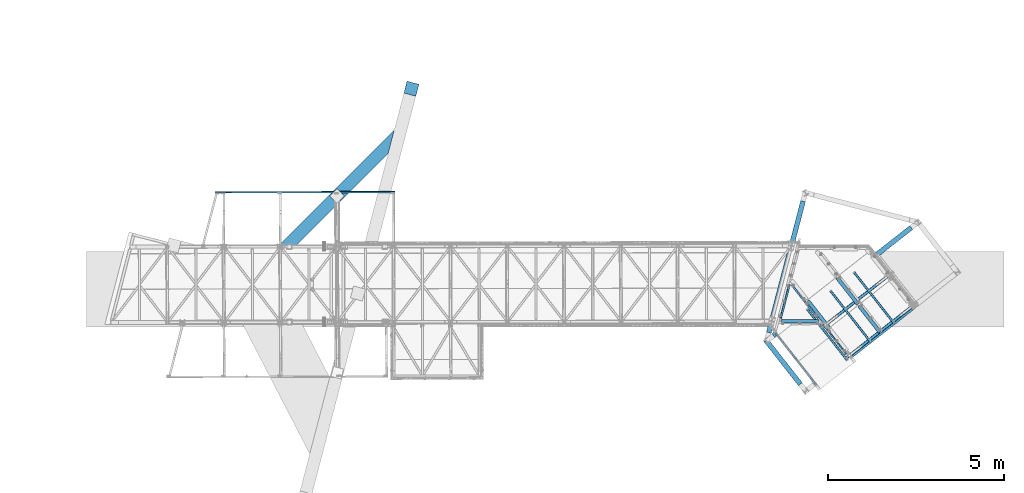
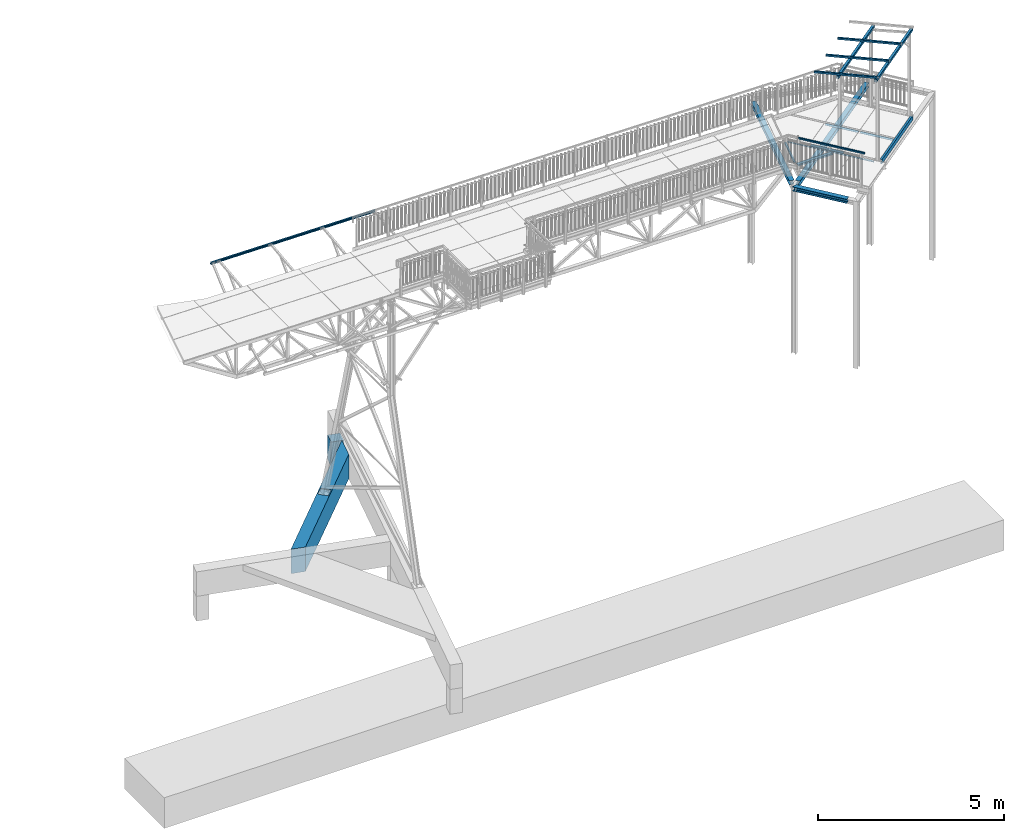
# One storey, part 19 of 169: 20 beams, 20 elements without a shape of their own.
"""IFC2X3 building model written with IfcOpenShell, lengths in millimetres."""

from ifc_helpers import new_model, si_unit, frame, origin_with_axes, origin_2d_with_axis, place, context, subcontext, project, spatial, polyline, rectangle, hollow_rectangle, i_section, l_section, u_section, outline, extrude, boolean, clip, halfspace, material, type_object, element, aggregate, save


model = new_model("IFC2X3")

# Units and contexts
model_context = context("Model", 3, precision=1e-05, world=origin_with_axes())
body_context = subcontext(model_context, "Body", "Model", "MODEL_VIEW")
ifc_project = project(units=[si_unit("LENGTHUNIT", "METRE", prefix="MILLI"), si_unit("AREAUNIT", "SQUARE_METRE"), si_unit("VOLUMEUNIT", "CUBIC_METRE"), si_unit("MASSUNIT", "GRAM", prefix="KILO"), si_unit("TIMEUNIT", "SECOND"), si_unit("PLANEANGLEUNIT", "RADIAN"), si_unit("SOLIDANGLEUNIT", "STERADIAN"), si_unit("THERMODYNAMICTEMPERATUREUNIT", "DEGREE_CELSIUS"), si_unit("LUMINOUSINTENSITYUNIT", "LUMEN")], contexts=[model_context])

# Site, building, storey
site_placement = place(None, origin_with_axes())
site = spatial("IfcSite", under=ifc_project, at=site_placement, Name="Undefined", CompositionType="ELEMENT")
building_placement = place(site_placement, origin_with_axes())
building = spatial("IfcBuilding", under=site, at=building_placement, Name="Undefined", CompositionType="ELEMENT")
storey_placement = place(building_placement, origin_with_axes())
storey = spatial("IfcBuildingStorey", under=building, at=storey_placement, Name="Undefined", CompositionType="ELEMENT", Elevation=0.0)

# Assembly, beam
assembly_1_placement = place(storey_placement, origin_with_axes())
assembly_1 = element("IfcElementAssembly", 1, at=assembly_1_placement, inside=storey, Name="Steel Assembly", AssemblyPlace="NOTDEFINED", PredefinedType="RIGID_FRAME")
ifc_material_1 = material(Name="STEEL/S355")
beam_type_1 = type_object("IfcBeamType", Name="C80*40*3", PredefinedType="NOTDEFINED")
beam_1_placement = place(assembly_1_placement, frame((2656.15307181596, 3794.81867264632, 13913.3460961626), z_axis=(0.0128442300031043, -0.117575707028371, 0.992980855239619), x_axis=(0.9999174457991, 0.00186469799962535, -0.0127131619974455)))
beam_1 = element("IfcBeam", 2, at=beam_1_placement, type_object=beam_type_1, material=ifc_material_1, Name="BEAM", ObjectType="C80*40*3", context=body_context, shape_type="SweptSolid", body=[
    extrude(u_section(Depth=80.0, FlangeWidth=40.0, WebThickness=3.0, FlangeThickness=3.0, FilletRadius=4.5, at=origin_2d_with_axis()), frame((5099.99999999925, -9.09494701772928e-13, -1.82783649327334e-12), z_axis=(-1.0, -3.46944695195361e-18, -1.38777878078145e-17), x_axis=(1.73472347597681e-18, -1.0, 0.0)), (0.0, 0.0, 1.0), 5100.0),
])
aggregate(assembly_1, [beam_1])

assembly_2_placement = place(storey_placement, origin_with_axes())
assembly_2 = element("IfcElementAssembly", 3, at=assembly_2_placement, inside=storey, Name="Steel Assembly", AssemblyPlace="NOTDEFINED", PredefinedType="RIGID_FRAME")
ifc_material_2 = material(Name="STEEL/S235")
beam_type_2 = type_object("IfcBeamType", Name="SHS60*3", PredefinedType="NOTDEFINED")
beam_2_placement = place(assembly_2_placement, frame((21235.6872458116, -441.726667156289, 16607.0940211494), z_axis=(0.0968806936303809, -0.123489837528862, -0.987605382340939), x_axis=(-0.6095916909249, 0.777021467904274, -0.156957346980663)))
beam_2 = element("IfcBeam", 4, at=beam_2_placement, type_object=beam_type_2, material=ifc_material_2, Name="BEAM", ObjectType="SHS60*3", context=body_context, shape_type="SweptSolid", body=[
    extrude(hollow_rectangle(XDim=60.0, YDim=60.0, WallThickness=3.0, InnerFilletRadius=3.0, OuterFilletRadius=6.0, at=origin_2d_with_axis()), frame((1856.51251667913, -3.83076606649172e-12, -5.15285735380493e-14), z_axis=(-1.0, -3.46944695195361e-18, -1.38777878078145e-17), x_axis=(1.73472347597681e-18, -1.0, 0.0)), (0.0, 0.0, 1.0), 1856.51),
])
aggregate(assembly_2, [beam_2])

assembly_3_placement = place(storey_placement, origin_with_axes())
assembly_3 = element("IfcElementAssembly", 5, at=assembly_3_placement, inside=storey, Name="Steel Assembly", AssemblyPlace="NOTDEFINED", PredefinedType="RIGID_FRAME")
beam_3_placement = place(assembly_3_placement, frame((21904.4444840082, 82.9291784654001, 16607.0941095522), z_axis=(0.0968806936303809, -0.123489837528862, -0.987605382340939), x_axis=(-0.6095916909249, 0.777021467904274, -0.156957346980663)))
beam_3 = element("IfcBeam", 6, at=beam_3_placement, type_object=beam_type_2, material=ifc_material_2, Name="BEAM", ObjectType="SHS60*3", context=body_context, shape_type="SweptSolid", body=[
    extrude(hollow_rectangle(XDim=60.0, YDim=60.0, WallThickness=3.0, InnerFilletRadius=3.0, OuterFilletRadius=6.0, at=origin_2d_with_axis()), frame((1856.51251667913, -3.83076606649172e-12, -5.15285735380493e-14), z_axis=(-1.0, -3.46944695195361e-18, -1.38777878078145e-17), x_axis=(1.73472347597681e-18, -1.0, 0.0)), (0.0, 0.0, 1.0), 1856.51),
])
aggregate(assembly_3, [beam_3])

assembly_4_placement = place(storey_placement, origin_with_axes())
assembly_4 = element("IfcElementAssembly", 7, at=assembly_4_placement, inside=storey, Name="Steel Assembly", AssemblyPlace="NOTDEFINED", PredefinedType="RIGID_FRAME")
beam_4_placement = place(assembly_4_placement, frame((20574.7977398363, -960.210091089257, 16607.0939334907), z_axis=(0.0968806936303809, -0.123489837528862, -0.987605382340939), x_axis=(-0.6095916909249, 0.777021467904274, -0.156957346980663)))
beam_4 = element("IfcBeam", 8, at=beam_4_placement, type_object=beam_type_2, material=ifc_material_2, Name="BEAM", ObjectType="SHS60*3", context=body_context, shape_type="SweptSolid", body=[
    extrude(hollow_rectangle(XDim=60.0, YDim=60.0, WallThickness=3.0, InnerFilletRadius=3.0, OuterFilletRadius=6.0, at=origin_2d_with_axis()), frame((1856.51251667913, -3.83076606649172e-12, -5.15285735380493e-14), z_axis=(-1.0, -3.46944695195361e-18, -1.38777878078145e-17), x_axis=(1.73472347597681e-18, -1.0, 0.0)), (0.0, 0.0, 1.0), 1856.51),
])
aggregate(assembly_4, [beam_4])

assembly_5_placement = place(storey_placement, origin_with_axes())
assembly_5 = element("IfcElementAssembly", 9, at=assembly_5_placement, inside=storey, Name="Steel Assembly", AssemblyPlace="NOTDEFINED", PredefinedType="RIGID_FRAME")
beam_type_3 = type_object("IfcBeamType", Name="RHS50*3", PredefinedType="NOTDEFINED")
beam_5_placement = place(assembly_5_placement, frame((18496.9639587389, -134.304097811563, 14875.4171565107), z_axis=(0.786773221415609, 0.617242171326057, 0.0), x_axis=(0.617242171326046, -0.786773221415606, 1.36000016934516e-07)))
beam_5 = element("IfcBeam", 10, at=beam_5_placement, type_object=beam_type_3, material=ifc_material_2, Name="PORĘCZ", ObjectType="RHS50*3", context=body_context, shape_type="Clipping", body=[
    clip(extrude(hollow_rectangle(XDim=50.0, YDim=50.0, WallThickness=3.0, InnerFilletRadius=3.0, OuterFilletRadius=6.0, at=origin_2d_with_axis()), frame((1998.99999999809, 1.81898940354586e-12, -2.23835521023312e-12), z_axis=(-1.0, -3.46944695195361e-18, -1.38777878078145e-17), x_axis=(1.73472347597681e-18, -1.0, 0.0)), (0.0, 0.0, 1.0), 1973.6), halfspace(frame((74.7029469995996, -25.0000000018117, 2.54961742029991e-06), z_axis=(-0.707106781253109, 0.707106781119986, 1.80100347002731e-10), x_axis=(-2.54700353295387e-10, 0.0, -1.0)), False)),
])
aggregate(assembly_5, [beam_5])

assembly_6_placement = place(storey_placement, origin_with_axes())
assembly_6 = element("IfcElementAssembly", 11, at=assembly_6_placement, inside=storey, Name="Steel Assembly", AssemblyPlace="NOTDEFINED", PredefinedType="RIGID_FRAME")
beam_type_4 = type_object("IfcBeamType", Name="L100*50*5", PredefinedType="NOTDEFINED")
beam_6_placement = place(assembly_6_placement, frame((19781.390925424, 138.911877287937, 13740.4178898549), z_axis=(-0.00178905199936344, 0.999998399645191, 0.0), x_axis=(-0.999998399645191, -0.00178905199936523, -2.9999999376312e-08)))
beam_6 = element("IfcBeam", 12, at=beam_6_placement, type_object=beam_type_4, material=ifc_material_2, Name="BEAM", ObjectType="L100*50*5", context=body_context, shape_type="SweptSolid", body=[
    extrude(l_section(Depth=100.0, Width=50.0, Thickness=5.0, FilletRadius=7.5, at=origin_2d_with_axis()), frame((1080.00000000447, 1.81898940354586e-12, 4.23983764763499e-14), z_axis=(-1.0, -3.46944695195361e-18, -1.38777878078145e-17), x_axis=(1.73472347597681e-18, -1.0, 0.0)), (0.0, 0.0, 1.0), 1080.0),
])
aggregate(assembly_6, [beam_6])

assembly_7_placement = place(storey_placement, origin_with_axes())
assembly_7 = element("IfcElementAssembly", 13, at=assembly_7_placement, inside=storey, Name="Steel Assembly", AssemblyPlace="NOTDEFINED", PredefinedType="RIGID_FRAME")
beam_7_placement = place(assembly_7_placement, frame((20914.4930233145, 580.087908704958, 13740.4180772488), z_axis=(-0.7867732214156, -0.61724217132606, -1.0406294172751e-07), x_axis=(0.617242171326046, -0.786773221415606, 1.36000016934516e-07)))
beam_7 = element("IfcBeam", 14, at=beam_7_placement, type_object=beam_type_4, material=ifc_material_2, Name="BEAM", ObjectType="L100*50*5", context=body_context, shape_type="SweptSolid", body=[
    extrude(l_section(Depth=100.0, Width=50.0, Thickness=5.0, FilletRadius=7.5, at=origin_2d_with_axis()), frame((950.000000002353, 0.0, -5.12984327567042e-27), z_axis=(-1.0, -3.46944695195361e-18, -1.38777878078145e-17), x_axis=(1.73472347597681e-18, -1.0, 0.0)), (0.0, 0.0, 1.0), 950.0),
])
aggregate(assembly_7, [beam_7])

assembly_8_placement = place(storey_placement, origin_with_axes())
assembly_8 = element("IfcElementAssembly", 15, at=assembly_8_placement, inside=storey, Name="Steel Assembly", AssemblyPlace="NOTDEFINED", PredefinedType="RIGID_FRAME")
beam_8_placement = place(assembly_8_placement, frame((20294.164641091, 1370.79499623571, 13740.4180769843), z_axis=(-0.7867732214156, -0.61724217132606, -1.0406294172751e-07), x_axis=(0.617242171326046, -0.786773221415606, 1.36000016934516e-07)))
beam_8 = element("IfcBeam", 16, at=beam_8_placement, type_object=beam_type_4, material=ifc_material_2, Name="BEAM", ObjectType="L100*50*5", context=body_context, shape_type="SweptSolid", body=[
    extrude(l_section(Depth=100.0, Width=50.0, Thickness=5.0, FilletRadius=7.5, at=origin_2d_with_axis()), frame((950.000000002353, 0.0, -5.12984327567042e-27), z_axis=(-1.0, -3.46944695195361e-18, -1.38777878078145e-17), x_axis=(1.73472347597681e-18, -1.0, 0.0)), (0.0, 0.0, 1.0), 950.0),
])
aggregate(assembly_8, [beam_8])

assembly_9_placement = place(storey_placement, origin_with_axes())
assembly_9 = element("IfcElementAssembly", 17, at=assembly_9_placement, inside=storey, Name="Steel Assembly", AssemblyPlace="NOTDEFINED", PredefinedType="RIGID_FRAME")
beam_9_placement = place(assembly_9_placement, frame((20049.7122343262, -28.4473636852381, 13740.4179532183), z_axis=(0.786773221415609, 0.617242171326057, 0.0), x_axis=(-0.617242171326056, 0.786773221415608, 5.09999997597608e-08)))
beam_9 = element("IfcBeam", 18, at=beam_9_placement, type_object=beam_type_4, material=ifc_material_2, Name="BEAM", ObjectType="L100*50*5", context=body_context, shape_type="SweptSolid", body=[
    extrude(l_section(Depth=100.0, Width=50.0, Thickness=5.0, FilletRadius=7.5, at=origin_2d_with_axis()), frame((950.000000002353, 0.0, -5.12984327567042e-27), z_axis=(-1.0, -3.46944695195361e-18, -1.38777878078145e-17), x_axis=(1.73472347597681e-18, -1.0, 0.0)), (0.0, 0.0, 1.0), 950.0),
])
aggregate(assembly_9, [beam_9])

assembly_10_placement = place(storey_placement, origin_with_axes())
assembly_10 = element("IfcElementAssembly", 19, at=assembly_10_placement, inside=storey, Name="Steel Assembly", AssemblyPlace="NOTDEFINED", PredefinedType="RIGID_FRAME")
beam_type_5 = type_object("IfcBeamType", Name="L50*3", PredefinedType="NOTDEFINED")
beam_10_placement = place(assembly_10_placement, frame((19744.4319899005, 227.822208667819, 13740.4177606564), z_axis=(-2.54700353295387e-10, 0.0, -1.0), x_axis=(-0.617242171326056, 0.786773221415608, 5.09999997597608e-08)))
beam_10 = element("IfcBeam", 20, at=beam_10_placement, type_object=beam_type_5, material=ifc_material_2, Name="BEAM", ObjectType="L50*3", context=body_context, shape_type="SweptSolid", body=[
    extrude(l_section(Depth=50.0, Width=50.0, Thickness=3.0, FilletRadius=7.0, EdgeRadius=3.5, at=origin_2d_with_axis()), frame((1200.00000000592, -1.74976843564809e-12, 0.0), z_axis=(-1.0, -3.46944695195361e-18, -1.38777878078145e-17), x_axis=(1.73472347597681e-18, -1.0, 0.0)), (0.0, 0.0, 1.0), 1200.0),
])
aggregate(assembly_10, [beam_10])

assembly_11_placement = place(storey_placement, origin_with_axes())
assembly_11 = element("IfcElementAssembly", 21, at=assembly_11_placement, inside=storey, Name="Steel Assembly", AssemblyPlace="NOTDEFINED", PredefinedType="RIGID_FRAME")
beam_11_placement = place(assembly_11_placement, frame((18694.3651001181, 231.335822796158, 13740.4179516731), z_axis=(0.967563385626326, -0.252628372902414, 0.0), x_axis=(0.252628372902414, 0.967563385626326, 0.0)))
beam_11 = element("IfcBeam", 22, at=beam_11_placement, type_object=beam_type_5, material=ifc_material_2, Name="BEAM", ObjectType="L50*3", context=body_context, shape_type="SweptSolid", body=[
    extrude(l_section(Depth=50.0, Width=50.0, Thickness=3.0, FilletRadius=7.0, EdgeRadius=3.5, at=origin_2d_with_axis()), frame((980.000000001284, 3.15765191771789e-11, 1.03682396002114e-10), z_axis=(-1.0, -3.46944695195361e-18, -1.38777878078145e-17), x_axis=(1.73472347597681e-18, -1.0, 0.0)), (0.0, 0.0, 1.0), 980.0),
])
aggregate(assembly_11, [beam_11])

assembly_12_placement = place(storey_placement, origin_with_axes())
assembly_12 = element("IfcElementAssembly", 23, at=assembly_12_placement, inside=storey, Name="Steel Assembly", AssemblyPlace="NOTDEFINED", PredefinedType="RIGID_FRAME")
beam_type_6 = type_object("IfcBeamType", Name="L40*3", PredefinedType="NOTDEFINED")
beam_12_placement = place(assembly_12_placement, frame((20541.5866213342, -780.167831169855, 13745.4175199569), z_axis=(-2.54700353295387e-10, 0.0, -1.0), x_axis=(-0.617242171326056, 0.786773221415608, 5.09999997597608e-08)))
beam_12 = element("IfcBeam", 24, at=beam_12_placement, type_object=beam_type_6, material=ifc_material_2, Name="BEAM", ObjectType="L40*3", context=body_context, shape_type="SweptSolid", body=[
    extrude(l_section(Depth=40.0, Width=40.0, Thickness=3.0, FilletRadius=6.0, EdgeRadius=3.0, at=origin_2d_with_axis()), frame((1055.00000000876, 1.20065167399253e-13, 0.0), z_axis=(-1.0, -3.46944695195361e-18, -1.38777878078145e-17), x_axis=(1.73472347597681e-18, -1.0, 0.0)), (0.0, 0.0, 1.0), 1055.0),
])
aggregate(assembly_12, [beam_12])

assembly_13_placement = place(storey_placement, origin_with_axes())
assembly_13 = element("IfcElementAssembly", 25, at=assembly_13_placement, inside=storey, Name="Steel Assembly", AssemblyPlace="NOTDEFINED", PredefinedType="RIGID_FRAME")
beam_type_7 = type_object("IfcBeamType", Name="SHS80*4", PredefinedType="NOTDEFINED")
beam_13_placement = place(assembly_13_placement, frame((20512.8314508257, -929.827475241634, 16500.2279238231), z_axis=(-0.617242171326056, 0.786773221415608, 5.09999997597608e-08), x_axis=(0.786773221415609, 0.617242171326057, 0.0)))
beam_13 = element("IfcBeam", 26, at=beam_13_placement, type_object=beam_type_7, material=ifc_material_2, Name="BEAM", ObjectType="SHS80*4", context=body_context, shape_type="SweptSolid", body=[
    extrude(hollow_rectangle(XDim=80.0, YDim=80.0, WallThickness=4.0, InnerFilletRadius=4.0, OuterFilletRadius=8.0, at=origin_2d_with_axis()), frame((2589.99999998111, 3.63797877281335e-12, -7.12989983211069e-27), z_axis=(-1.0, -3.46944695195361e-18, -1.38777878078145e-17), x_axis=(1.73472347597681e-18, -1.0, 0.0)), (0.0, 0.0, 1.0), 2590.0),
])
aggregate(assembly_13, [beam_13])

assembly_14_placement = place(storey_placement, origin_with_axes())
assembly_14 = element("IfcElementAssembly", 27, at=assembly_14_placement, inside=storey, Name="Steel Assembly", AssemblyPlace="NOTDEFINED", PredefinedType="RIGID_FRAME")
beam_14_placement = place(assembly_14_placement, frame((19833.8652738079, -64.377201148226, 16324.2279235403), z_axis=(-0.617242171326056, 0.786773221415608, 5.09999997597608e-08), x_axis=(0.786773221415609, 0.617242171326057, 0.0)))
beam_14 = element("IfcBeam", 28, at=beam_14_placement, type_object=beam_type_7, material=ifc_material_2, Name="BEAM", ObjectType="SHS80*4", context=body_context, shape_type="SweptSolid", body=[
    extrude(hollow_rectangle(XDim=80.0, YDim=80.0, WallThickness=4.0, InnerFilletRadius=4.0, OuterFilletRadius=8.0, at=origin_2d_with_axis()), frame((2589.99999998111, 3.63797877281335e-12, -7.12989983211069e-27), z_axis=(-1.0, -3.46944695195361e-18, -1.38777878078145e-17), x_axis=(1.73472347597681e-18, -1.0, 0.0)), (0.0, 0.0, 1.0), 2590.0),
])
aggregate(assembly_14, [beam_14])

assembly_15_placement = place(storey_placement, origin_with_axes())
assembly_15 = element("IfcElementAssembly", 29, at=assembly_15_placement, inside=storey, Name="Steel Assembly", AssemblyPlace="NOTDEFINED", PredefinedType="RIGID_FRAME")
beam_type_8 = type_object("IfcBeamType", Name="HEB140", PredefinedType="NOTDEFINED")
beam_15_placement = place(assembly_15_placement, frame((18487.2619790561, -267.74720383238, 13470.4171581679), z_axis=(-2.54700353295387e-10, 0.0, -1.0), x_axis=(0.786773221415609, 0.617242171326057, 0.0)))
beam_15 = element("IfcBeam", 30, at=beam_15_placement, type_object=beam_type_8, material=ifc_material_1, Name="BEAM", ObjectType="HEB140", context=body_context, shape_type="SweptSolid", body=[
    extrude(i_section(OverallWidth=140.0, OverallDepth=140.0, WebThickness=7.0, FlangeThickness=12.0, FilletRadius=12.0, at=origin_2d_with_axis()), frame((4959.92133669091, 5.20449224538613e-14, 0.0), z_axis=(-1.0, -3.46944695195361e-18, -1.38777878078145e-17), x_axis=(1.73472347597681e-18, -1.0, 0.0)), (0.0, 0.0, 1.0), 4959.92),
])
aggregate(assembly_15, [beam_15])

assembly_16_placement = place(storey_placement, origin_with_axes())
assembly_16 = element("IfcElementAssembly", 31, at=assembly_16_placement, inside=storey, Name="Steel Assembly", AssemblyPlace="NOTDEFINED", PredefinedType="RIGID_FRAME")
beam_16_placement = place(assembly_16_placement, frame((18290.5686737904, -422.057746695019, 13470.4171322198), z_axis=(-2.54700353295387e-10, 0.0, -1.0), x_axis=(0.617242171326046, -0.786773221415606, 1.36000016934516e-07)))
beam_16 = element("IfcBeam", 32, at=beam_16_placement, type_object=beam_type_8, material=ifc_material_1, Name="BEAM", ObjectType="HEB140", context=body_context, shape_type="Clipping", body=[
    clip(extrude(i_section(OverallWidth=140.0, OverallDepth=140.0, WebThickness=7.0, FlangeThickness=12.0, FilletRadius=12.0, at=origin_2d_with_axis()), frame((1549.99999999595, 9.6589552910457e-14, -1.81898940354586e-12), z_axis=(-1.0, -3.46944695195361e-18, -1.38777878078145e-17), x_axis=(1.73472347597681e-18, -1.0, 0.0)), (0.0, 0.0, 1.0), 1678.99), halfspace(frame((34.7088111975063, -69.9999999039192, 9.89130057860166e-08), z_axis=(0.895912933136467, 0.444229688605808, -4.08923970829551e-10), x_axis=(0.0, 0.0, 1.0)), True)),
])
aggregate(assembly_16, [beam_16])

assembly_17_placement = place(storey_placement, origin_with_axes())
assembly_17 = element("IfcElementAssembly", 33, at=assembly_17_placement, inside=storey, Name="Steel Assembly", AssemblyPlace="NOTDEFINED", PredefinedType="RIGID_FRAME")
beam_17_placement = place(assembly_17_placement, frame((18353.7257667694, -180.166900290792, 13470.4171322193), z_axis=(-2.54700353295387e-10, 0.0, -1.0), x_axis=(0.252628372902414, 0.967563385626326, 0.0)))
beam_17 = element("IfcBeam", 34, at=beam_17_placement, type_object=beam_type_8, material=ifc_material_1, Name="BEAM", ObjectType="HEB140", context=body_context, shape_type="SweptSolid", body=[
    extrude(i_section(OverallWidth=140.0, OverallDepth=140.0, WebThickness=7.0, FlangeThickness=12.0, FilletRadius=12.0, at=origin_2d_with_axis()), frame((3846.00000000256, -3.74472675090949e-12, -2.54506930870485e-20), z_axis=(-1.0, -3.46944695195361e-18, -1.38777878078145e-17), x_axis=(1.73472347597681e-18, -1.0, 0.0)), (0.0, 0.0, 1.0), 3846.0),
])
aggregate(assembly_17, [beam_17])

assembly_18_placement = place(storey_placement, origin_with_axes())
assembly_18 = element("IfcElementAssembly", 35, at=assembly_18_placement, inside=storey, Name="Steel Assembly", AssemblyPlace="NOTDEFINED", PredefinedType="RIGID_FRAME")
beam_type_9 = type_object("IfcBeamType", Name="UPN140", PredefinedType="NOTDEFINED")
beam_18_placement = place(assembly_18_placement, frame((20736.9966985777, -842.936443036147, 13725.4175548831), z_axis=(-2.54700353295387e-10, 0.0, -1.0), x_axis=(0.786773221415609, 0.617242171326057, 0.0)))
beam_18 = element("IfcBeam", 36, at=beam_18_placement, type_object=beam_type_9, material=ifc_material_1, Name="BEAM", ObjectType="UPN140", context=body_context, shape_type="Clipping", body=[
    clip(extrude(u_section(Depth=140.0, FlangeWidth=60.0, WebThickness=7.0, FlangeThickness=10.0, FilletRadius=10.0, EdgeRadius=5.0, at=origin_2d_with_axis()), frame((2261.07048094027, 2.94385952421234e-13, 3.63797883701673e-12), z_axis=(-1.0, -3.46944695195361e-18, -1.38777878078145e-17), x_axis=(1.73472347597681e-18, -1.0, 0.0)), (0.0, 0.0, 1.0), 2261.07), halfspace(frame((2225.00000004, 30.0000000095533, -3.06698711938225e-06), z_axis=(-0.707106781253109, 0.707106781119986, 1.80100347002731e-10), x_axis=(0.0, 0.0, 1.0)), True)),
])
aggregate(assembly_18, [beam_18])

assembly_19_placement = place(storey_placement, origin_with_axes())
assembly_19 = element("IfcElementAssembly", 37, at=assembly_19_placement, inside=storey, Name="BEAM", AssemblyPlace="NOTDEFINED", PredefinedType="REINFORCEMENT_UNIT")
ifc_material_3 = material(Name="CONCRETE/C45/55")
beam_type_10 = type_object("IfcBeamType", Name="350*350", PredefinedType="NOTDEFINED")
beam_19_placement = place(assembly_19_placement, frame((8226.55908417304, 6731.38769648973, 4480.41805559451), z_axis=(0.967563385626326, -0.252628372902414, 0.0), x_axis=(-2.54700353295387e-10, 0.0, -1.0)))
beam_19 = element("IfcBeam", 38, at=beam_19_placement, type_object=beam_type_10, material=ifc_material_3, Name="BEAM", ObjectType="350*350", context=body_context, shape_type="SweptSolid", body=[
    extrude(rectangle(XDim=350.0, YDim=350.0, at=origin_2d_with_axis()), frame((810.00000000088, 3.93634573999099e-21, 0.0), z_axis=(-1.0, -3.46944695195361e-18, -1.38777878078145e-17), x_axis=(1.73472347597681e-18, -1.0, 0.0)), (0.0, 0.0, 1.0), 810.0),
])
aggregate(assembly_19, [beam_19])

assembly_20_placement = place(storey_placement, origin_with_axes())
assembly_20 = element("IfcElementAssembly", 39, at=assembly_20_placement, inside=storey, Name="BEAM", AssemblyPlace="NOTDEFINED", PredefinedType="REINFORCEMENT_UNIT")
beam_type_11 = type_object("IfcBeamType", Name="800*350", PredefinedType="NOTDEFINED")
beam_20_placement = place(assembly_20_placement, frame((7895.86809412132, 5464.84734231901, 4880.4180555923), z_axis=(0.0, 0.0, 1.0), x_axis=(-0.707269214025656, -0.706944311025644, -8.70000000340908e-08)))
beam_20 = element("IfcBeam", 40, at=beam_20_placement, type_object=beam_type_11, material=ifc_material_3, Name="BEAM", ObjectType="800*350", context=body_context, shape_type="CSG", body=[
    boolean("DIFFERENCE", boolean("DIFFERENCE", boolean("DIFFERENCE", extrude(rectangle(XDim=350.0, YDim=800.0, at=origin_2d_with_axis()), frame((5437.64460319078, 3.10568353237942e-13, -9.09494629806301e-13), z_axis=(-1.0, -3.46944695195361e-18, -1.38777878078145e-17), x_axis=(1.73472347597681e-18, -1.0, 0.0)), (0.0, 0.0, 1.0), 5437.64), extrude(outline(polyline([(0.0, 0.0), (289.999999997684, -7.36690708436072e-11), (289.999999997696, 290.000000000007), (-3.73734110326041e-09, 289.999999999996), (0.0, 0.0)])), frame((2367.72197995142, 145.000243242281, 379.999297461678), z_axis=(0.0, 0.0, 1.0), x_axis=(1.73472347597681e-18, -1.0, 0.0)), (0.0, 0.0, 1.0), 20.0)), extrude(rectangle(XDim=350.0, YDim=800.0, at=origin_2d_with_axis()), frame((6866.34203430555, -2437.09840784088, 2.45671749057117e-06), z_axis=(-0.505733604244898, 0.862689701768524, 1.3541957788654e-10), x_axis=(-0.862689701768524, -0.505733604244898, -3.50551185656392e-10)), (0.0, 0.0, 1.0), 5750.0)), extrude(rectangle(XDim=350.0, YDim=800.0, at=origin_2d_with_axis()), frame((-1280.2317178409, -750.508326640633, -1.06265385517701e-06), z_axis=(0.862689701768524, 0.505733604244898, 6.81635515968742e-10), x_axis=(-0.505733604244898, 0.862689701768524, 1.3541957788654e-10)), (0.0, 0.0, 1.0), 12350.0)),
])
aggregate(assembly_20, [beam_20])

save(model, "model.ifc")
